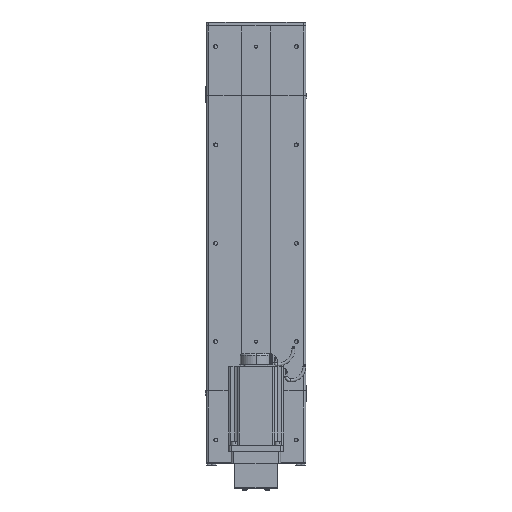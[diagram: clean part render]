
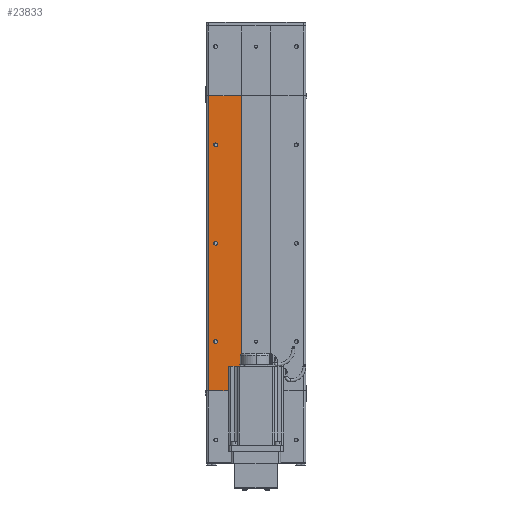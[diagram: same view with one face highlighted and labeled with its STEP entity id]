
A CAD part, front view. The second image highlights one B-rep face of the part: STEP entity #23833.
In plain terms, the highlighted planar face has unit normal (0, -1, 0).
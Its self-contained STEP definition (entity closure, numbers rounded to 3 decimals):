
#23051 = VERTEX_POINT ( 'NONE', #57143 ) ;
#23073 = EDGE_CURVE ( 'NONE', #23090, #23322, #57566, .T. ) ;
#23090 = VERTEX_POINT ( 'NONE', #57502 ) ;
#23098 = VERTEX_POINT ( 'NONE', #57623 ) ;
#23100 = EDGE_CURVE ( 'NONE', #23051, #23098, #57746, .T. ) ;
#23322 = VERTEX_POINT ( 'NONE', #58189 ) ;
#23575 = VERTEX_POINT ( 'NONE', #59505 ) ;
#23640 = VERTEX_POINT ( 'NONE', #59728 ) ;
#23674 = EDGE_CURVE ( 'NONE', #23098, #23051, #59768, .T. ) ;
#23677 = ORIENTED_EDGE ( 'NONE', *, *, #23924, .F. ) ;
#23678 = ORIENTED_EDGE ( 'NONE', *, *, #23691, .T. ) ;
#23683 = ORIENTED_EDGE ( 'NONE', *, *, #23693, .F. ) ;
#23691 = EDGE_CURVE ( 'NONE', #23966, #23965, #59922, .T. ) ;
#23693 = EDGE_CURVE ( 'NONE', #23966, #23699, #59852, .T. ) ;
#23695 = EDGE_LOOP ( 'NONE', ( #23677, #23960 ) ) ;
#23696 = EDGE_LOOP ( 'NONE', ( #23959, #23957, #23683, #23678 ) ) ;
#23699 = VERTEX_POINT ( 'NONE', #59838 ) ;
#23710 = ORIENTED_EDGE ( 'NONE', *, *, #23674, .F. ) ;
#23776 = EDGE_CURVE ( 'NONE', #23575, #23640, #60338, .T. ) ;
#23833 = ADVANCED_FACE ( 'NONE', ( #60164, #60146, #60149, #60152 ), #60170, .F. ) ;
#23922 = ORIENTED_EDGE ( 'NONE', *, *, #23969, .F. ) ;
#23924 = EDGE_CURVE ( 'NONE', #23640, #23575, #60390, .T. ) ;
#23930 = EDGE_LOOP ( 'NONE', ( #23710, #23967 ) ) ;
#23956 = VERTEX_POINT ( 'NONE', #60412 ) ;
#23957 = ORIENTED_EDGE ( 'NONE', *, *, #23961, .T. ) ;
#23958 = EDGE_CURVE ( 'NONE', #23965, #23956, #60415, .T. ) ;
#23959 = ORIENTED_EDGE ( 'NONE', *, *, #23958, .T. ) ;
#23960 = ORIENTED_EDGE ( 'NONE', *, *, #23776, .F. ) ;
#23961 = EDGE_CURVE ( 'NONE', #23956, #23699, #60509, .T. ) ;
#23964 = ORIENTED_EDGE ( 'NONE', *, *, #23073, .F. ) ;
#23965 = VERTEX_POINT ( 'NONE', #60416 ) ;
#23966 = VERTEX_POINT ( 'NONE', #60571 ) ;
#23967 = ORIENTED_EDGE ( 'NONE', *, *, #23100, .F. ) ;
#23968 = EDGE_LOOP ( 'NONE', ( #23922, #23964 ) ) ;
#23969 = EDGE_CURVE ( 'NONE', #23322, #23090, #60569, .T. ) ;
#57143 = CARTESIAN_POINT ( 'NONE',  ( -86., -34.5, 500. ) ) ;
#57502 = CARTESIAN_POINT ( 'NONE',  ( -86., -34.5, 300. ) ) ;
#57559 = AXIS2_PLACEMENT_3D ( 'NONE', #57660, #57658, #57657 ) ;
#57566 = CIRCLE ( 'NONE', #57559, 4. ) ;
#57613 = DIRECTION ( 'NONE',  ( 1., 0., 0. ) ) ;
#57614 = DIRECTION ( 'NONE',  ( 0., -1., 0. ) ) ;
#57615 = CARTESIAN_POINT ( 'NONE',  ( -82., -34.5, 500. ) ) ;
#57623 = CARTESIAN_POINT ( 'NONE',  ( -78., -34.5, 500. ) ) ;
#57657 = DIRECTION ( 'NONE',  ( 1., 0., 0. ) ) ;
#57658 = DIRECTION ( 'NONE',  ( 0., -1., 0. ) ) ;
#57660 = CARTESIAN_POINT ( 'NONE',  ( -82., -34.5, 300. ) ) ;
#57746 = CIRCLE ( 'NONE', #57764, 4. ) ;
#57764 = AXIS2_PLACEMENT_3D ( 'NONE', #57615, #57614, #57613 ) ;
#58189 = CARTESIAN_POINT ( 'NONE',  ( -78., -34.5, 300. ) ) ;
#59505 = CARTESIAN_POINT ( 'NONE',  ( -86., -34.5, 100. ) ) ;
#59728 = CARTESIAN_POINT ( 'NONE',  ( -78., -34.5, 100. ) ) ;
#59768 = CIRCLE ( 'NONE', #60028, 4. ) ;
#59838 = CARTESIAN_POINT ( 'NONE',  ( -30., -34.5, 600. ) ) ;
#59840 = DIRECTION ( 'NONE',  ( 1., 0., 0. ) ) ;
#59841 = VECTOR ( 'NONE', #59840, 1000. ) ;
#59843 = CARTESIAN_POINT ( 'NONE',  ( -96., -34.5, 600. ) ) ;
#59848 = DIRECTION ( 'NONE',  ( 0., 0., -1. ) ) ;
#59852 = LINE ( 'NONE', #59843, #59841 ) ;
#59922 = LINE ( 'NONE', #60083, #60003 ) ;
#60003 = VECTOR ( 'NONE', #59848, 1000. ) ;
#60007 = DIRECTION ( 'NONE',  ( 1., 0., 0. ) ) ;
#60019 = DIRECTION ( 'NONE',  ( 0., -1., 0. ) ) ;
#60028 = AXIS2_PLACEMENT_3D ( 'NONE', #60037, #60019, #60007 ) ;
#60037 = CARTESIAN_POINT ( 'NONE',  ( -82., -34.5, 500. ) ) ;
#60083 = CARTESIAN_POINT ( 'NONE',  ( -96., -34.5, 600. ) ) ;
#60146 = FACE_BOUND ( 'NONE', #23968, .T. ) ;
#60149 = FACE_BOUND ( 'NONE', #23695, .T. ) ;
#60152 = FACE_OUTER_BOUND ( 'NONE', #23696, .T. ) ;
#60164 = FACE_BOUND ( 'NONE', #23930, .T. ) ;
#60170 = PLANE ( 'NONE',  #60209 ) ;
#60191 = DIRECTION ( 'NONE',  ( -1., 0., 0. ) ) ;
#60192 = DIRECTION ( 'NONE',  ( 0., 1., 0. ) ) ;
#60193 = CARTESIAN_POINT ( 'NONE',  ( -96., -34.5, 600. ) ) ;
#60204 = CARTESIAN_POINT ( 'NONE',  ( -82., -34.5, 100. ) ) ;
#60209 = AXIS2_PLACEMENT_3D ( 'NONE', #60193, #60192, #60191 ) ;
#60280 = AXIS2_PLACEMENT_3D ( 'NONE', #60204, #60347, #60346 ) ;
#60338 = CIRCLE ( 'NONE', #60280, 4. ) ;
#60346 = DIRECTION ( 'NONE',  ( 1., 0., 0. ) ) ;
#60347 = DIRECTION ( 'NONE',  ( 0., -1., 0. ) ) ;
#60390 = CIRCLE ( 'NONE', #60560, 4. ) ;
#60412 = CARTESIAN_POINT ( 'NONE',  ( -30., -34.5, 0. ) ) ;
#60413 = DIRECTION ( 'NONE',  ( 0., 0., 1. ) ) ;
#60414 = CARTESIAN_POINT ( 'NONE',  ( -96., -34.5, 0. ) ) ;
#60415 = LINE ( 'NONE', #60414, #60593 ) ;
#60416 = CARTESIAN_POINT ( 'NONE',  ( -96., -34.5, 0. ) ) ;
#60493 = DIRECTION ( 'NONE',  ( 1., 0., 0. ) ) ;
#60494 = DIRECTION ( 'NONE',  ( 0., -1., 0. ) ) ;
#60495 = CARTESIAN_POINT ( 'NONE',  ( -82., -34.5, 300. ) ) ;
#60496 = AXIS2_PLACEMENT_3D ( 'NONE', #60495, #60494, #60493 ) ;
#60509 = LINE ( 'NONE', #60594, #60572 ) ;
#60550 = DIRECTION ( 'NONE',  ( 1., 0., 0. ) ) ;
#60551 = DIRECTION ( 'NONE',  ( 0., -1., 0. ) ) ;
#60559 = CARTESIAN_POINT ( 'NONE',  ( -82., -34.5, 100. ) ) ;
#60560 = AXIS2_PLACEMENT_3D ( 'NONE', #60559, #60551, #60550 ) ;
#60569 = CIRCLE ( 'NONE', #60496, 4. ) ;
#60571 = CARTESIAN_POINT ( 'NONE',  ( -96., -34.5, 600. ) ) ;
#60572 = VECTOR ( 'NONE', #60413, 1000. ) ;
#60592 = DIRECTION ( 'NONE',  ( 1., 0., 0. ) ) ;
#60593 = VECTOR ( 'NONE', #60592, 1000. ) ;
#60594 = CARTESIAN_POINT ( 'NONE',  ( -30., -34.5, 0. ) ) ;
